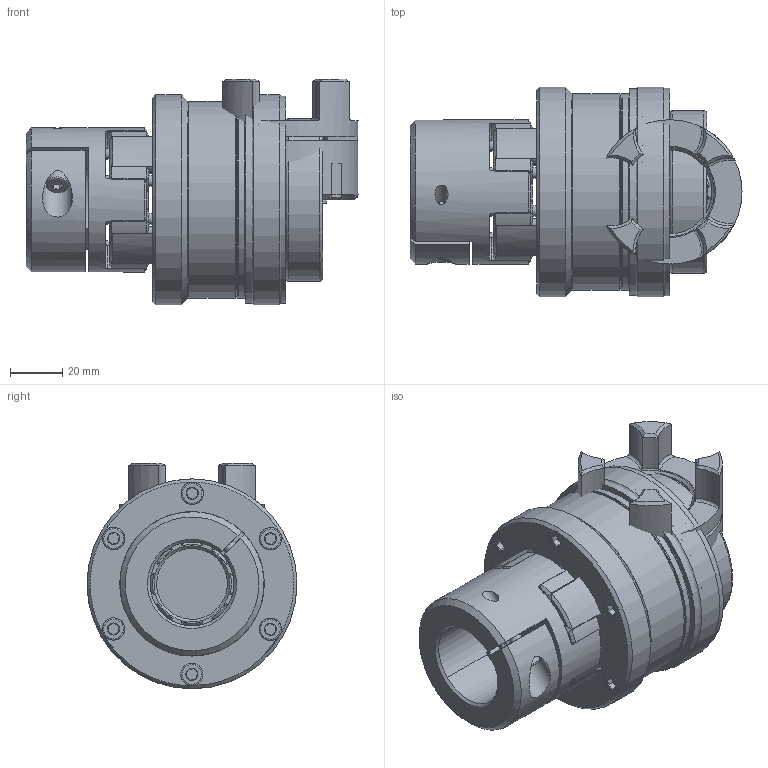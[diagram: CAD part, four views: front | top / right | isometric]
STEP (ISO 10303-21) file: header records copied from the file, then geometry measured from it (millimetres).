
FILE_DESCRIPTION( ( 'Unknown' ), '1' );
FILE_NAME( 'C:/Dokumente und Einstellungen/Sven/Desktop/hp kbk/E-KI/KBK EKI-24-100.stp', 'Unknown', ( 'Unknown' ), ( 'Unknown' ), 'XStep 1.0', 'Unknown', ' ' );
FILE_SCHEMA( ( 'automotive_design' ) );
Length unit declared in the file: millimetre
Products named in the file (16): Assem1; Assem2; ball_bearing_-_6007_0_01; ball_bearing_-_6007_0_02; ball_bearing_-_6007_0_03; KBK L-I-60 Grundkörper; Konusbuchse 60; a_35; Stellring 60; Druckring 60; Flansch 60; din_en_24017_m6x20; Elastomerflansch 24; Zahnkranz_24_Standard; KBE 2 - 24_Nabe; ISO EN DIN 4762_M5x20
Bounding box: 126.5 x 80 x 86 mm (x, y, z)
Volume: 563182.8 mm3; surface area: 252105 mm2
Topology: 42 solids, 42 shells, 1143 faces, 2508 edges, 1540 vertices
Faces by surface type: cone 372, plane 369, cylinder 332, torus 70
Full cylindrical faces by diameter (mm): 2.5 x4, 3.242 x6, 4 x22, 4.134 x12, 4.917 x18, 5 x10, 5.2 x12, 6 x7, 6.5 x2, 6.6 x12, 8.5 x20, 8.8 x7, 11.4 x2, 15 x4, 27 x4, 30 x2, 30.2 x2, 32 x2, 33 x2, 35 x7, 43.7 x6, 44 x2, 46 x4, 46.5 x2, 49.5 x2, 53.6 x6, 55 x4, 61.3 x2, 62 x7, 66 x2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
Entity records: 12821 total; most frequent: CARTESIAN_POINT 2979, DIRECTION 2114, ORIENTED_EDGE 1664, AXIS2_PLACEMENT_3D 985, EDGE_CURVE 832, EDGE_LOOP 668, VERTEX_POINT 578, FACE_OUTER_BOUND 544
